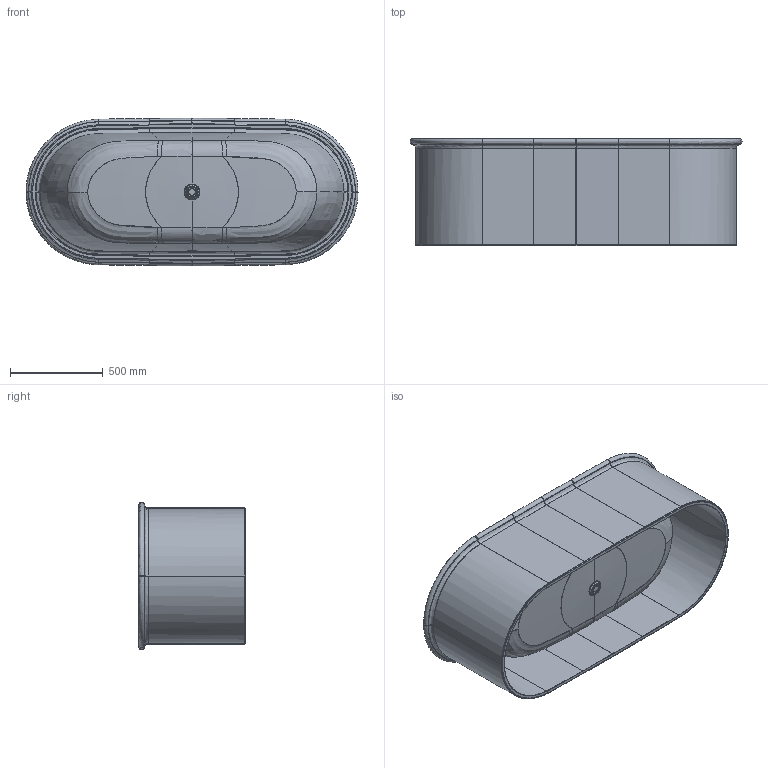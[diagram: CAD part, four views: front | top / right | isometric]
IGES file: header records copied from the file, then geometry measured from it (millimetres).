
Start section: Write IGES format                                    datakit 2008 (c)
Global section: file name: Unknown; native system: DATAKIT Converter; preprocessor: Unknown; author: Unknown; organization: Unknown; date: 950613.180003; units: millimetre
Bounding box: 1787.81 x 575 x 793.23 mm (x, y, z)
Surface area: 9813854.7 mm2 (no closed solid volume)
Topology: 0 solids, 0 shells, 242 faces, 2411 edges, 2407 vertices
Faces by surface type: bspline 189, revolution 41, extrusion 12
